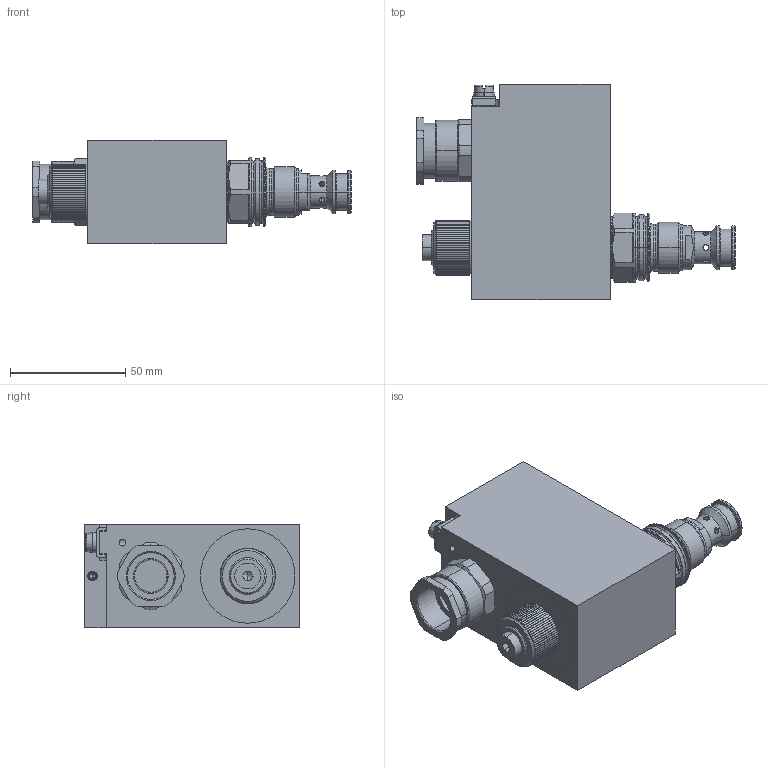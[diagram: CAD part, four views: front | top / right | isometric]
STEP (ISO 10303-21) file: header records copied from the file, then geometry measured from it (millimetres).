
FILE_DESCRIPTION (( 'STEP AP214' ), '1' );
FILE_NAME ('SDYPM22-AB_BA.STEP', '2014-06-19T13:01:32', ( '' ), ( '' ), 'SwSTEP 2.0', 'SolidWorks 2014', '' );
FILE_SCHEMA (( 'AUTOMOTIVE_DESIGN' ));
Length unit declared in the file: millimetre
Products named in the file (2): SDYPM22-AB_BA
Bounding box: 138.25 x 93.3 x 45 mm (x, y, z)
Volume: 275036.6 mm3; surface area: 67058.7 mm2
Topology: 15 solids, 22 shells, 912 faces, 2314 edges, 1478 vertices
Faces by surface type: plane 431, cylinder 272, cone 123, torus 70, bspline 16
Entity records: 39092 total; most frequent: CARTESIAN_POINT 7292, ORIENTED_EDGE 4612, DIRECTION 4400, EDGE_CURVE 2306, AXIS2_PLACEMENT_3D 1765, VERTEX_POINT 1476, EDGE_LOOP 996, UNCERTAINTY_MEASURE_WITH_UNIT 929
